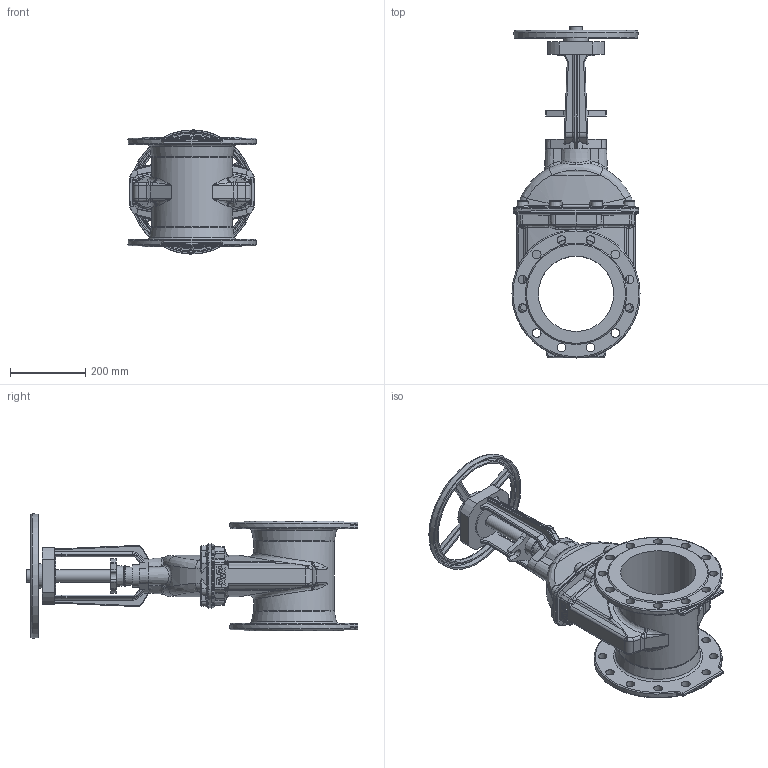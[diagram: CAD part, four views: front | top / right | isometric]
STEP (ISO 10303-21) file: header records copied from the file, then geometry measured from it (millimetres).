
FILE_DESCRIPTION (( 'STEP AP203' ), '1' );
FILE_NAME ('O_21_34_DN200_41XXXXX close_AA0.step', '2020-02-12T09:21:59', ( 'Windows User' ), ( 'AVK' ), 'SwSTEP 2.0', 'SolidWorks 2012', '' );
FILE_SCHEMA (( 'CONFIG_CONTROL_DESIGN' ));
Length unit declared in the file: millimetre
Products named in the file (1): O_21_34_DN200_41XXXXX close_AA0
Bounding box: 340 x 881.37 x 329.91 mm (x, y, z)
Volume: 14529416 mm3; surface area: 1217771.7 mm2
Topology: 1 solids, 1 shells, 819 faces, 2116 edges, 1289 vertices
Faces by surface type: cylinder 223, plane 208, bspline 208, cone 100, torus 64, sphere 16
Full cylindrical faces by diameter (mm): 23 x24, 32 x2, 47.9 x1, 54 x1, 60 x1, 65 x1, 100 x1, 105 x1, 200 x1, 214 x1, 340 x2
Entity records: 34695 total; most frequent: CARTESIAN_POINT 17261, ORIENTED_EDGE 3990, DIRECTION 3114, EDGE_CURVE 1995, VERTEX_POINT 1250, AXIS2_PLACEMENT_3D 1231, EDGE_LOOP 953, FACE_OUTER_BOUND 865
